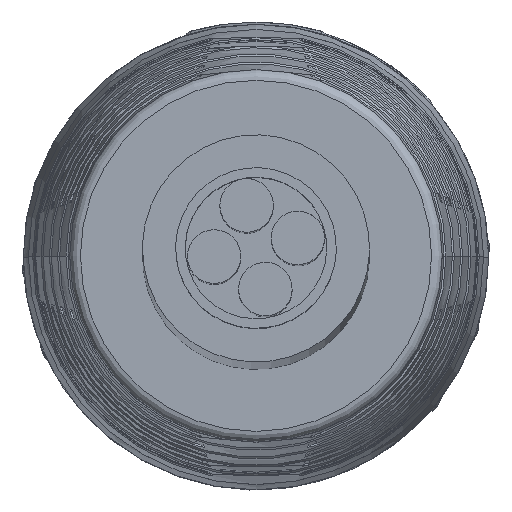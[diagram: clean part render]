
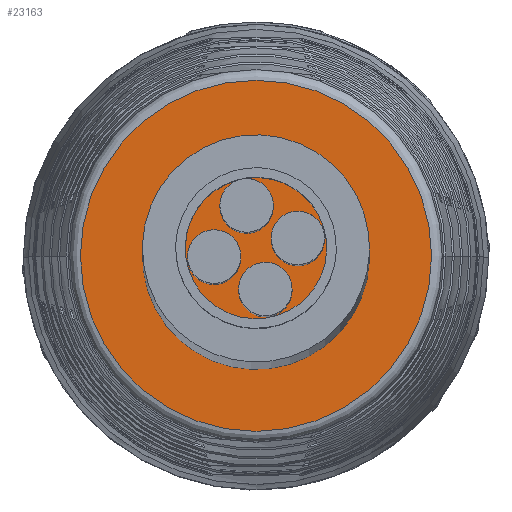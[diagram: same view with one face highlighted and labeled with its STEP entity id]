
A CAD part, top view. The second image highlights one B-rep face of the part: STEP entity #23163.
In plain terms, the highlighted planar face has unit normal (0, 0, 1).
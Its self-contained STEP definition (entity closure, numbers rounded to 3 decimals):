
#5713 = CARTESIAN_POINT ( 'NONE',  ( -79.987, 249.495, -895.938 ) ) ;
#6029 = CARTESIAN_POINT ( 'NONE',  ( -69.487, 251.803, -895.938 ) ) ;
#6437 = AXIS2_PLACEMENT_3D ( 'NONE', #19180, #24490, #36687 ) ;
#11402 = EDGE_CURVE ( 'NONE', #25235, #25235, #21562, .T. ) ;
#11546 = FACE_OUTER_BOUND ( 'NONE', #21571, .T. ) ;
#15151 = AXIS2_PLACEMENT_3D ( 'NONE', #6029, #29545, #32049 ) ;
#19180 = CARTESIAN_POINT ( 'NONE',  ( -79.987, 241.303, -895.938 ) ) ;
#20084 = PLANE ( 'NONE',  #15151 ) ;
#21562 = CIRCLE ( 'NONE', #6437, 8.192 ) ;
#21571 = EDGE_LOOP ( 'NONE', ( #35773 ) ) ;
#23163 = ADVANCED_FACE ( 'NONE', ( #11546 ), #20084, .T. ) ;
#24490 = DIRECTION ( 'NONE',  ( 0., 0., -1. ) ) ;
#25235 = VERTEX_POINT ( 'NONE', #5713 ) ;
#29545 = DIRECTION ( 'NONE',  ( 0., 0., 1. ) ) ;
#32049 = DIRECTION ( 'NONE',  ( 0., 1., 0. ) ) ;
#35773 = ORIENTED_EDGE ( 'NONE', *, *, #11402, .F. ) ;
#36687 = DIRECTION ( 'NONE',  ( 0., 1., 0. ) ) ;
